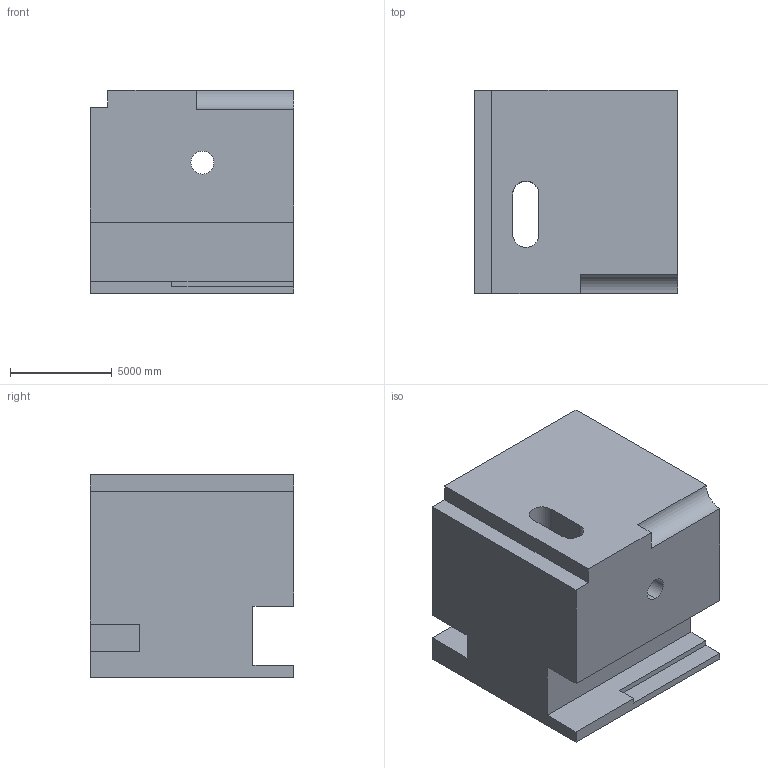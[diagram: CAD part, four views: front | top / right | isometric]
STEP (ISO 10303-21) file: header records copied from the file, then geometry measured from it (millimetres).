
FILE_DESCRIPTION (( 'STEP AP203' ), '1' );
FILE_NAME ('64.STEP', '2022-08-30T14:18:05', ( 'user' ), ( '' ), 'SwSTEP 2.0', 'SolidWorks 2021', '' );
FILE_SCHEMA (( 'CONFIG_CONTROL_DESIGN' ));
Length unit declared in the file: centimetre
Products named in the file (1): 64
Bounding box: 10000 x 10000 x 10000 mm (x, y, z)
Volume: 853357716031.5 mm3; surface area: 772156374.3 mm2
Topology: 1 solids, 1 shells, 27 faces, 75 edges, 50 vertices
Faces by surface type: plane 22, cylinder 5
Entity records: 944 total; most frequent: CARTESIAN_POINT 153, ORIENTED_EDGE 150, DIRECTION 141, EDGE_CURVE 75, LINE 65, VECTOR 65, VERTEX_POINT 50, AXIS2_PLACEMENT_3D 38
